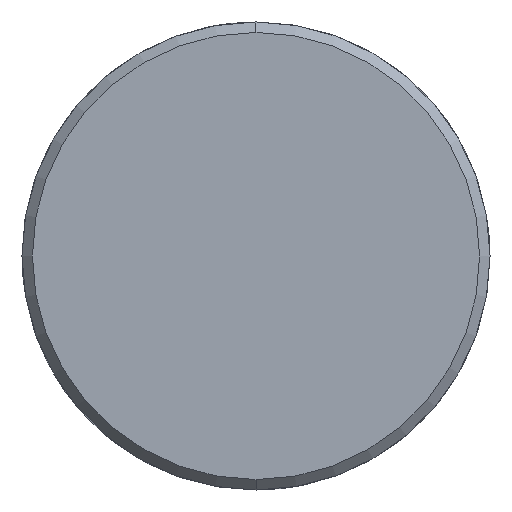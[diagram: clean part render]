
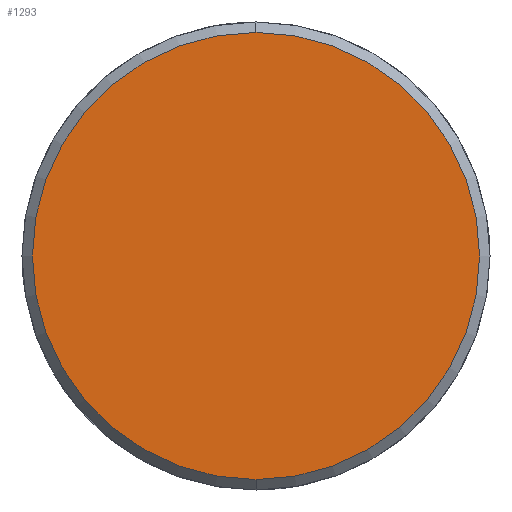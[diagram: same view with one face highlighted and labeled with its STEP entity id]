
A CAD part, left-side view. The second image highlights one B-rep face of the part: STEP entity #1293.
In plain terms, the highlighted planar face has unit normal (-1, 0, 0).
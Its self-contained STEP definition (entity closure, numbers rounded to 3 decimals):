
#1225=CARTESIAN_POINT('Vertex',(-7.,0.,-21.5)) ;
#1228=CARTESIAN_POINT('Axis2P3D Location',(-7.,0.,0.)) ;
#1232=CARTESIAN_POINT('Vertex',(-7.,21.5,0.)) ;
#1235=CARTESIAN_POINT('Axis2P3D Location',(-7.,0.,0.)) ;
#1239=CARTESIAN_POINT('Vertex',(-7.,0.,21.5)) ;
#1261=CARTESIAN_POINT('Axis2P3D Location',(-7.,0.,0.)) ;
#1265=CARTESIAN_POINT('Vertex',(-7.,-21.5,0.)) ;
#1268=CARTESIAN_POINT('Axis2P3D Location',(-7.,0.,0.)) ;
#1282=CARTESIAN_POINT('Axis2P3D Location',(-7.,0.,0.)) ;
#1229=DIRECTION('Axis2P3D Direction',(1.,0.,-0.)) ;
#1236=DIRECTION('Axis2P3D Direction',(1.,0.,-0.)) ;
#1262=DIRECTION('Axis2P3D Direction',(1.,0.,-0.)) ;
#1269=DIRECTION('Axis2P3D Direction',(1.,0.,-0.)) ;
#1283=DIRECTION('Axis2P3D Direction',(1.,0.,-0.)) ;
#1284=DIRECTION('Axis2P3D XDirection',(-0.,0.,-1.)) ;
#1230=AXIS2_PLACEMENT_3D('Circle Axis2P3D',#1228,#1229,$) ;
#1237=AXIS2_PLACEMENT_3D('Circle Axis2P3D',#1235,#1236,$) ;
#1263=AXIS2_PLACEMENT_3D('Circle Axis2P3D',#1261,#1262,$) ;
#1270=AXIS2_PLACEMENT_3D('Circle Axis2P3D',#1268,#1269,$) ;
#1285=AXIS2_PLACEMENT_3D('Plane Axis2P3D',#1282,#1283,#1284) ;
#1288=ORIENTED_EDGE('',*,*,#1234,.F.) ;
#1289=ORIENTED_EDGE('',*,*,#1272,.F.) ;
#1290=ORIENTED_EDGE('',*,*,#1267,.F.) ;
#1291=ORIENTED_EDGE('',*,*,#1241,.F.) ;
#1293=ADVANCED_FACE('351-32X56X220',(#1292),#1286,.F.) ;
#1231=CIRCLE('generated circle',#1230,21.5) ;
#1238=CIRCLE('generated circle',#1237,21.5) ;
#1264=CIRCLE('generated circle',#1263,21.5) ;
#1271=CIRCLE('generated circle',#1270,21.5) ;
#1234=EDGE_CURVE('',#1226,#1233,#1231,.T.) ;
#1241=EDGE_CURVE('',#1233,#1240,#1238,.T.) ;
#1267=EDGE_CURVE('',#1240,#1266,#1264,.T.) ;
#1272=EDGE_CURVE('',#1266,#1226,#1271,.T.) ;
#1287=EDGE_LOOP('',(#1288,#1289,#1290,#1291)) ;
#1292=FACE_OUTER_BOUND('',#1287,.T.) ;
#1286=PLANE('Plane',#1285) ;
#1226=VERTEX_POINT('',#1225) ;
#1233=VERTEX_POINT('',#1232) ;
#1240=VERTEX_POINT('',#1239) ;
#1266=VERTEX_POINT('',#1265) ;
